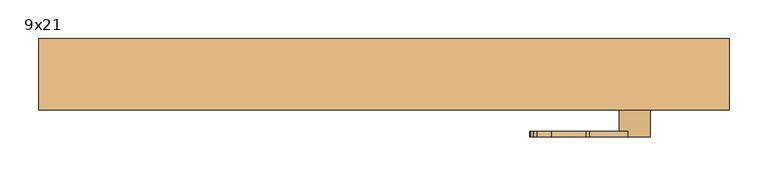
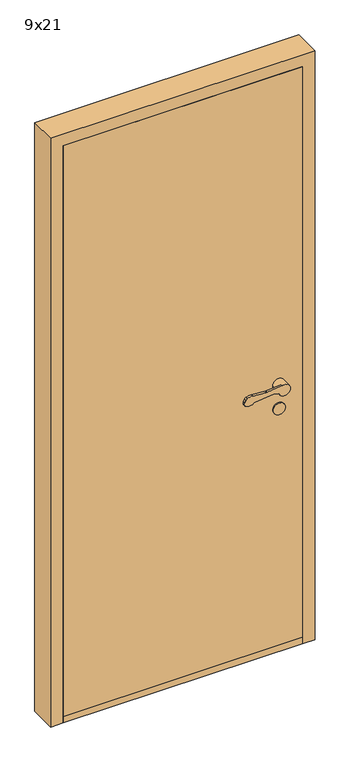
"""IFC4 building model written with IfcOpenShell, lengths in millimetres: door geometry, Innerdør Slett (Diplomat) : 9x21."""

from ifc_helpers import new_model, si_unit, point, frame, frame_2d, origin, origin_with_axes, place, context, project, spatial, polyline, circle_curve, trimmed, segment, composite_curve, outline, extrude, source, transform, mapped, element, save
from ifc_brep_helpers import plane_surface, cylinder_surface, revolved_surface, advanced_brep


def door_9x21_a27eb880(model_context):
    return source(origin(), model_context, "Body", "SolidModel", [
        advanced_brep(
        [(343.9611305, 20.0, 949.1175955), (338.8520664, 20.0, 949.9496913), (276.0476109, 20.0, 943.6260011), (246.721536, 20.0, 938.7393398), (241.8691983, 20.0, 951.8913379), (245.505009, 20.0, 959.9624074), (250.3175669, 20.0, 964.8810513), (268.8963175, 20.0, 967.2639242), (313.6202158, 20.0, 964.1804415), (318.6891233, 20.0, 964.26032), (367.2687793, 20.0, 969.1517356), (396.379633, 20.0, 951.3474568), (358.3841161, 20.0, 942.6204086), (318.6891233, 12.8915284, 964.26032), (313.6202158, 12.8915284, 964.1804415), (268.8963175, 12.8915284, 967.2639242), (250.3175669, 12.8915284, 964.8810513), (245.505009, 12.8915284, 959.9624074), (241.8691983, 12.8915284, 951.8913379), (246.721536, 12.8915284, 938.7393398), (276.0476109, 12.8915284, 943.6260011), (338.8520664, 12.8915284, 949.9496913), (343.9611305, 12.8915284, 949.1175955), (358.3841161, 12.8915284, 942.6204086), (356.379633, 12.8915284, 951.3474568), (367.2687793, 12.8915284, 969.1517356), (396.379633, -15.0, 951.3474568), (356.379633, -15.0, 951.3474568)],
        [
            (0, 1, circle_curve(frame((339.8538865, 20.0, 940.0), z_axis=(0.0, -1.0, 0.0), x_axis=(-0.9949691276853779, 0.0, -0.10018200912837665)), 10.0)),
            (1, 2),
            (2, 3, circle_curve(frame((257.8569644, 20.0, 962.352734), z_axis=(0.0, 1.0, 0.0), x_axis=(-0.9949691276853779, 0.0, -0.10018200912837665)), 26.1072815)),
            (3, 4, circle_curve(frame((250.9867937, 20.0, 947.7840939), z_axis=(0.0, 1.0, 0.0), x_axis=(-0.9949691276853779, 0.0, -0.10018200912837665)), 10.0)),
            (4, 5),
            (5, 6, circle_curve(frame((254.6226045, 20.0, 955.8551634), z_axis=(0.0, 1.0, 0.0), x_axis=(-0.9949691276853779, 0.0, -0.10018200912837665)), 10.0)),
            (6, 7, circle_curve(frame((263.2326797, 20.0, 937.8033877), z_axis=(0.0, 1.0, 0.0), x_axis=(-0.9949691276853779, 0.0, -0.10018200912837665)), 30.0)),
            (7, 8),
            (8, 9, circle_curve(frame((315.683663, 20.0, 994.1093938), z_axis=(0.0, -1.0, 0.0), x_axis=(-0.9949691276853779, 0.0, -0.10018200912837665)), 30.0)),
            (9, 10),
            (10, 11, circle_curve(frame((376.379633, 20.0, 951.3474568), z_axis=(0.0, 1.0, 0.0), x_axis=(-1.0, 0.0, 0.0)), 20.0)),
            (11, 12, circle_curve(frame((376.379633, 20.0, 951.3474568), z_axis=(0.0, 1.0, 0.0), x_axis=(-1.0, 0.0, 0.0)), 20.0)),
            (12, 0),
            (13, 14, circle_curve(frame((315.683663, 12.8915284, 994.1093938), z_axis=(0.0, 1.0, 0.0), x_axis=(-0.9949691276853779, 0.0, -0.10018200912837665)), 30.0)),
            (14, 15),
            (15, 16, circle_curve(frame((263.2326797, 12.8915284, 937.8033877), z_axis=(0.0, -1.0, 0.0), x_axis=(-0.9949691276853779, 0.0, -0.10018200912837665)), 30.0)),
            (16, 17, circle_curve(frame((254.6226045, 12.8915284, 955.8551634), z_axis=(0.0, -1.0, 0.0), x_axis=(-0.9949691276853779, 0.0, -0.10018200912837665)), 10.0)),
            (17, 18),
            (18, 19, circle_curve(frame((250.9867937, 12.8915284, 947.7840939), z_axis=(0.0, -1.0, 0.0), x_axis=(-0.9949691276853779, 0.0, -0.10018200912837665)), 10.0)),
            (19, 20, circle_curve(frame((257.8569644, 12.8915284, 962.352734), z_axis=(0.0, -1.0, 0.0), x_axis=(-0.9949691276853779, 0.0, -0.10018200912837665)), 26.1072815)),
            (20, 21),
            (21, 22, circle_curve(frame((339.8538865, 12.8915284, 940.0), z_axis=(0.0, 1.0, 0.0), x_axis=(-0.9949691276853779, 0.0, -0.10018200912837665)), 10.0)),
            (22, 23),
            (23, 24, circle_curve(frame((376.379633, 12.8915284, 951.3474568), z_axis=(0.0, 1.0, 0.0), x_axis=(-1.0, 0.0, 0.0)), 20.0)),
            (24, 25, circle_curve(frame((376.379633, 12.8915284, 951.3474568), z_axis=(0.0, 1.0, 0.0), x_axis=(-1.0, 0.0, 0.0)), 20.0)),
            (25, 13),
            (9, 13),
            (25, 10),
            (22, 0),
            (12, 23),
            (21, 1),
            (20, 2),
            (19, 3),
            (18, 4),
            (17, 5),
            (16, 6),
            (15, 7),
            (14, 8),
            (26, 27, circle_curve(frame((376.379633, -15.0, 951.3474568), z_axis=(0.0, -1.0, 0.0), x_axis=(-1.0, 0.0, 0.0)), 20.0)),
            (27, 26, circle_curve(frame((376.379633, -15.0, 951.3474568), z_axis=(0.0, -1.0, 0.0), x_axis=(-1.0, 0.0, 0.0)), 20.0)),
            (27, 24),
            (11, 26),
        ],
        [
            plane_surface(frame((367.6960588, 20.0, 969.1947577), z_axis=(0.0, 1.0000000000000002, 0.0), x_axis=(0.9949691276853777, 0.0, 0.10018200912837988))),
            plane_surface(frame((367.6960588, 12.8915284, 969.1947577), z_axis=(0.0, -1.0000000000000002, 0.0), x_axis=(-0.9949691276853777, 0.0, -0.10018200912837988))),
            plane_surface(frame((318.6891233, 20.0, 964.26032), z_axis=(-0.10018200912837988, 0.0, 0.9949691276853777), x_axis=(0.0, -1.0, 0.0))),
            plane_surface(frame((376.9687366, 20.0, 934.2485115), z_axis=(-0.41072439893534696, 0.0, -0.91175954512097), x_axis=(0.0, -1.0, 0.0))),
            revolved_surface(polyline([(329.9041952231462, 12.8915284, 938.9981799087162), (329.9041952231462, 20.0, 938.9981799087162)]), (339.8538865, 12.8915284, 940.0), (0.0, -1.0, 0.0)),
            plane_surface(frame((338.8520664, 20.0, 949.9496913), z_axis=(0.10018200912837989, 0.0, -0.9949691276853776), x_axis=(0.0, -1.0, 0.0))),
            cylinder_surface(frame((257.8569644, 12.8915284, 962.352734), z_axis=(0.0, 1.0, 0.0), x_axis=(-0.9949691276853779, 0.0, -0.10018200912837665)), 26.1072815),
            cylinder_surface(frame((250.9867937, 12.8915284, 947.7840939), z_axis=(0.0, 1.0, 0.0), x_axis=(-0.9949691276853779, 0.0, -0.10018200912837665)), 10.0),
            plane_surface(frame((241.8691983, 20.0, 951.8913379), z_axis=(-0.9117595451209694, 0.0, 0.41072439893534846), x_axis=(0.0, -1.0, 0.0))),
            cylinder_surface(frame((254.6226045, 12.8915284, 955.8551634), z_axis=(0.0, 1.0, 0.0), x_axis=(-0.9949691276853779, 0.0, -0.10018200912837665)), 10.0),
            cylinder_surface(frame((263.2326797, 12.8915284, 937.8033877), z_axis=(0.0, 1.0, 0.0), x_axis=(-0.9949691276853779, 0.0, -0.10018200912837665)), 30.0),
            plane_surface(frame((268.8963175, 20.0, 967.2639242), z_axis=(0.06878157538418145, 0.0, 0.9976317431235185), x_axis=(0.0, -1.0, 0.0))),
            revolved_surface(polyline([(285.8345891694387, 12.8915284, 991.1039335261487), (285.8345891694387, 20.0, 991.1039335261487)]), (315.683663, 12.8915284, 994.1093938), (0.0, -1.0, 0.0)),
            plane_surface(frame((356.379633, -15.0, 951.3474568), z_axis=(0.0, -1.0, 0.0), x_axis=(0.0, 0.0, -1.0))),
            cylinder_surface(frame((376.379633, -15.0, 951.3474568), z_axis=(0.0, 1.0, 0.0), x_axis=(-1.0, 0.0, 0.0)), 20.0),
        ],
        [
            (0, [[1, 2, 3, 4, 5, 6, 7, 8, 9, 10, 11, 12, 13]]),
            (1, [[14, 15, 16, 17, 18, 19, 20, 21, 22, 23, 24, 25, 26]]),
            (2, [[27, -26, 28, -10]]),
            (3, [[29, -13, 30, -23]]),
            (4, [[-1, -29, -22, 31]]),
            (5, [[-2, -31, -21, 32]]),
            (6, [[-3, -32, -20, 33]]),
            (7, [[-4, -33, -19, 34]]),
            (8, [[-5, -34, -18, 35]]),
            (9, [[-6, -35, -17, 36]]),
            (10, [[-7, -36, -16, 37]]),
            (11, [[-8, -37, -15, 38]]),
            (12, [[-9, -38, -14, -27]]),
            (13, [[39, 40]]),
            (14, [[-40, 41, -24, -30, -12, 42]]),
            (14, [[-39, -42, -11, -28, -25, -41]]),
        ],
    ),
        extrude(outline(composite_curve([segment(trimmed(circle_curve(frame_2d((866.3474568, 376.379633)), 20.0), [point((866.3474568, 396.379633))], [point((866.3474568, 356.379633))], False, "CARTESIAN"), True, "CONTINUOUS"), segment(trimmed(circle_curve(frame_2d((866.3474568, 376.379633)), 20.0), [point((866.3474568, 356.379633))], [point((866.3474568, 396.379633))], False, "CARTESIAN"), True, "CONTINUOUS")], self_intersect=False)), frame((0.0, -15.0, 0.0), z_axis=(0.0, 1.0, 0.0), x_axis=(0.0, 0.0, 1.0)), (0.0, 0.0, 1.0), 5.0),
        advanced_brep(
        [(343.9611305, -100.0, 949.1175955), (358.3841161, -100.0, 942.6204086), (396.379633, -100.0, 951.3474568), (367.2687793, -100.0, 969.1517356), (318.6891233, -100.0, 964.26032), (313.6202158, -100.0, 964.1804415), (268.8963175, -100.0, 967.2639242), (250.3175669, -100.0, 964.8810513), (245.505009, -100.0, 959.9624074), (241.8691983, -100.0, 951.8913379), (246.721536, -100.0, 938.7393398), (276.0476109, -100.0, 943.6260011), (338.8520664, -100.0, 949.9496913), (318.6891233, -92.8915284, 964.26032), (367.2687793, -92.8915284, 969.1517356), (356.379633, -92.8915284, 951.3474568), (358.3841161, -92.8915284, 942.6204086), (343.9611305, -92.8915284, 949.1175955), (338.8520664, -92.8915284, 949.9496913), (276.0476109, -92.8915284, 943.6260011), (246.721536, -92.8915284, 938.7393398), (241.8691983, -92.8915284, 951.8913379), (245.505009, -92.8915284, 959.9624074), (250.3175669, -92.8915284, 964.8810513), (268.8963175, -92.8915284, 967.2639242), (313.6202158, -92.8915284, 964.1804415), (396.379633, -65.0, 951.3474568), (356.379633, -65.0, 951.3474568)],
        [
            (0, 1),
            (1, 2, circle_curve(frame((376.379633, -100.0, 951.3474568), z_axis=(0.0, -1.0, 0.0), x_axis=(-1.0, 0.0, 0.0)), 20.0)),
            (2, 3, circle_curve(frame((376.379633, -100.0, 951.3474568), z_axis=(0.0, -1.0, 0.0), x_axis=(-1.0, 0.0, 0.0)), 20.0)),
            (3, 4),
            (4, 5, circle_curve(frame((315.683663, -100.0, 994.1093938), z_axis=(0.0, 1.0, 0.0), x_axis=(-0.9949691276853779, 0.0, -0.10018200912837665)), 30.0)),
            (5, 6),
            (6, 7, circle_curve(frame((263.2326797, -100.0, 937.8033877), z_axis=(0.0, -1.0, 0.0), x_axis=(-0.9949691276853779, 0.0, -0.10018200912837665)), 30.0)),
            (7, 8, circle_curve(frame((254.6226045, -100.0, 955.8551634), z_axis=(0.0, -1.0, 0.0), x_axis=(-0.9949691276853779, 0.0, -0.10018200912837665)), 10.0)),
            (8, 9),
            (9, 10, circle_curve(frame((250.9867937, -100.0, 947.7840939), z_axis=(0.0, -1.0, 0.0), x_axis=(-0.9949691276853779, 0.0, -0.10018200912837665)), 10.0)),
            (10, 11, circle_curve(frame((257.8569644, -100.0, 962.352734), z_axis=(0.0, -1.0, 0.0), x_axis=(-0.9949691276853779, 0.0, -0.10018200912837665)), 26.1072815)),
            (11, 12),
            (12, 0, circle_curve(frame((339.8538865, -100.0, 940.0), z_axis=(0.0, 1.0, 0.0), x_axis=(-0.9949691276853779, 0.0, -0.10018200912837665)), 10.0)),
            (13, 14),
            (14, 15, circle_curve(frame((376.379633, -92.8915284, 951.3474568), z_axis=(0.0, -1.0, 0.0), x_axis=(-1.0, 0.0, 0.0)), 20.0)),
            (15, 16, circle_curve(frame((376.379633, -92.8915284, 951.3474568), z_axis=(0.0, -1.0, 0.0), x_axis=(-1.0, 0.0, 0.0)), 20.0)),
            (16, 17),
            (17, 18, circle_curve(frame((339.8538865, -92.8915284, 940.0), z_axis=(0.0, -1.0, 0.0), x_axis=(-0.9949691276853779, 0.0, -0.10018200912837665)), 10.0)),
            (18, 19),
            (19, 20, circle_curve(frame((257.8569644, -92.8915284, 962.352734), z_axis=(0.0, 1.0, 0.0), x_axis=(-0.9949691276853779, 0.0, -0.10018200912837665)), 26.1072815)),
            (20, 21, circle_curve(frame((250.9867937, -92.8915284, 947.7840939), z_axis=(0.0, 1.0, 0.0), x_axis=(-0.9949691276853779, 0.0, -0.10018200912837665)), 10.0)),
            (21, 22),
            (22, 23, circle_curve(frame((254.6226045, -92.8915284, 955.8551634), z_axis=(0.0, 1.0, 0.0), x_axis=(-0.9949691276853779, 0.0, -0.10018200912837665)), 10.0)),
            (23, 24, circle_curve(frame((263.2326797, -92.8915284, 937.8033877), z_axis=(0.0, 1.0, 0.0), x_axis=(-0.9949691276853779, 0.0, -0.10018200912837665)), 30.0)),
            (24, 25),
            (25, 13, circle_curve(frame((315.683663, -92.8915284, 994.1093938), z_axis=(0.0, -1.0, 0.0), x_axis=(-0.9949691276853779, 0.0, -0.10018200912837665)), 30.0)),
            (3, 14),
            (13, 4),
            (16, 1),
            (0, 17),
            (12, 18),
            (11, 19),
            (10, 20),
            (9, 21),
            (8, 22),
            (7, 23),
            (6, 24),
            (5, 25),
            (26, 27, circle_curve(frame((376.379633, -65.0, 951.3474568), z_axis=(0.0, 1.0, 0.0), x_axis=(-1.0, 0.0, 0.0)), 20.0)),
            (27, 26, circle_curve(frame((376.379633, -65.0, 951.3474568), z_axis=(0.0, 1.0, 0.0), x_axis=(-1.0, 0.0, 0.0)), 20.0)),
            (26, 2),
            (15, 27),
        ],
        [
            plane_surface(frame((367.6960588, -100.0, 969.1947577), z_axis=(0.0, -1.0000000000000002, 0.0), x_axis=(0.9949691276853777, 0.0, 0.10018200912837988))),
            plane_surface(frame((367.6960588, -92.8915284, 969.1947577), z_axis=(0.0, 1.0000000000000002, 0.0), x_axis=(-0.9949691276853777, 0.0, -0.10018200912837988))),
            plane_surface(frame((318.6891233, -100.0, 964.26032), z_axis=(-0.10018200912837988, 0.0, 0.9949691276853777), x_axis=(0.0, 1.0, 0.0))),
            plane_surface(frame((376.9687366, -100.0, 934.2485115), z_axis=(-0.41072439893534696, 0.0, -0.91175954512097), x_axis=(0.0, 1.0, 0.0))),
            revolved_surface(polyline([(329.9041952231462, -92.8915284, 938.9981799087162), (329.9041952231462, -100.0, 938.9981799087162)]), (339.8538865, -92.8915284, 940.0), (0.0, 1.0, 0.0)),
            plane_surface(frame((338.8520664, -100.0, 949.9496913), z_axis=(0.10018200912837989, 0.0, -0.9949691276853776), x_axis=(0.0, 1.0, 0.0))),
            cylinder_surface(frame((257.8569644, -92.8915284, 962.352734), z_axis=(0.0, -1.0, 0.0), x_axis=(-0.9949691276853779, 0.0, -0.10018200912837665)), 26.1072815),
            cylinder_surface(frame((250.9867937, -92.8915284, 947.7840939), z_axis=(0.0, -1.0, 0.0), x_axis=(-0.9949691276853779, 0.0, -0.10018200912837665)), 10.0),
            plane_surface(frame((241.8691983, -100.0, 951.8913379), z_axis=(-0.9117595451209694, 0.0, 0.41072439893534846), x_axis=(0.0, 1.0, 0.0))),
            cylinder_surface(frame((254.6226045, -92.8915284, 955.8551634), z_axis=(0.0, -1.0, 0.0), x_axis=(-0.9949691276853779, 0.0, -0.10018200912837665)), 10.0),
            cylinder_surface(frame((263.2326797, -92.8915284, 937.8033877), z_axis=(0.0, -1.0, 0.0), x_axis=(-0.9949691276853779, 0.0, -0.10018200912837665)), 30.0),
            plane_surface(frame((268.8963175, -100.0, 967.2639242), z_axis=(0.06878157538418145, 0.0, 0.9976317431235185), x_axis=(0.0, 1.0, 0.0))),
            revolved_surface(polyline([(285.8345891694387, -92.8915284, 991.1039335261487), (285.8345891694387, -100.0, 991.1039335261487)]), (315.683663, -92.8915284, 994.1093938), (0.0, 1.0, 0.0)),
            plane_surface(frame((356.379633, -65.0, 951.3474568), z_axis=(0.0, 1.0, 0.0), x_axis=(0.0, 0.0, -1.0))),
            cylinder_surface(frame((376.379633, -65.0, 951.3474568), z_axis=(0.0, -1.0, 0.0), x_axis=(-1.0, 0.0, 0.0)), 20.0),
        ],
        [
            (0, [[1, 2, 3, 4, 5, 6, 7, 8, 9, 10, 11, 12, 13]]),
            (1, [[14, 15, 16, 17, 18, 19, 20, 21, 22, 23, 24, 25, 26]]),
            (2, [[-4, 27, -14, 28]]),
            (3, [[-17, 29, -1, 30]]),
            (4, [[31, -18, -30, -13]]),
            (5, [[32, -19, -31, -12]]),
            (6, [[33, -20, -32, -11]]),
            (7, [[34, -21, -33, -10]]),
            (8, [[35, -22, -34, -9]]),
            (9, [[36, -23, -35, -8]]),
            (10, [[37, -24, -36, -7]]),
            (11, [[38, -25, -37, -6]]),
            (12, [[-28, -26, -38, -5]]),
            (13, [[39, 40]]),
            (14, [[41, -2, -29, -16, 42, -39]]),
            (14, [[-42, -15, -27, -3, -41, -40]]),
        ],
    ),
        extrude(outline(composite_curve([segment(trimmed(circle_curve(frame_2d((866.3474568, 376.379633)), 20.0), [point((866.3474568, 396.379633))], [point((866.3474568, 356.379633))], False, "CARTESIAN"), True, "CONTINUOUS"), segment(trimmed(circle_curve(frame_2d((866.3474568, 376.379633)), 20.0), [point((866.3474568, 356.379633))], [point((866.3474568, 396.379633))], False, "CARTESIAN"), True, "CONTINUOUS")], self_intersect=False)), frame((0.0, -70.0, 0.0), z_axis=(0.0, 1.0, 0.0), x_axis=(0.0, 0.0, 1.0)), (0.0, 0.0, 1.0), 5.0),
        extrude(outline(polyline([(456.379633, 27.0), (456.379633, -65.0), (-349.620367, -65.0), (-349.620367, 27.0), (456.379633, 27.0)])), origin_with_axes(), (0.0, 0.0, 1.0), 22.0),
        extrude(outline(polyline([(456.379633, -15.0), (456.379633, -65.0), (-349.620367, -65.0), (-349.620367, -15.0), (456.379633, -15.0)])), frame((0.0, 0.0, 22.0), z_axis=(0.0, 0.0, 1.0), x_axis=(1.0, 0.0, 0.0)), (0.0, 0.0, 1.0), 2031.0),
        extrude(outline(polyline([(0.0, -349.620367), (2053.0, -349.620367), (2053.0, 456.379633), (0.0, 456.379633), (0.0, 498.379633), (2095.0, 498.379633), (2095.0, -391.620367), (0.0, -391.620367), (0.0, -349.620367)])), frame((0.0, -65.0, 0.0), z_axis=(0.0, 1.0, 0.0), x_axis=(0.0, 0.0, 1.0)), (0.0, 0.0, 1.0), 92.0),
    ])


if __name__ == "__main__":
    model = new_model("IFC4")
    model_context = context("Model", 3, world=origin())
    ifc_project = project(units=[si_unit("LENGTHUNIT", "METRE", prefix="MILLI")], contexts=[model_context])
    site = spatial("IfcSite", under=ifc_project)
    building = spatial("IfcBuilding", under=site)
    placement = place(None, origin())
    door_9x21_shape = door_9x21_a27eb880(model_context)
    element("IfcDoor", 1, ObjectType="Innerdør Slett (Diplomat) : 9x21", at=placement, inside=building, context=model_context, shape_type="MappedRepresentation", body=[
        mapped(door_9x21_shape, transform((0.0, 0.0, 0.0), x_axis=(1.0, 0.0, 0.0), y_axis=(0.0, 1.0, 0.0), z_axis=(0.0, 0.0, 1.0))),
    ])
    save(model, "model.ifc")
